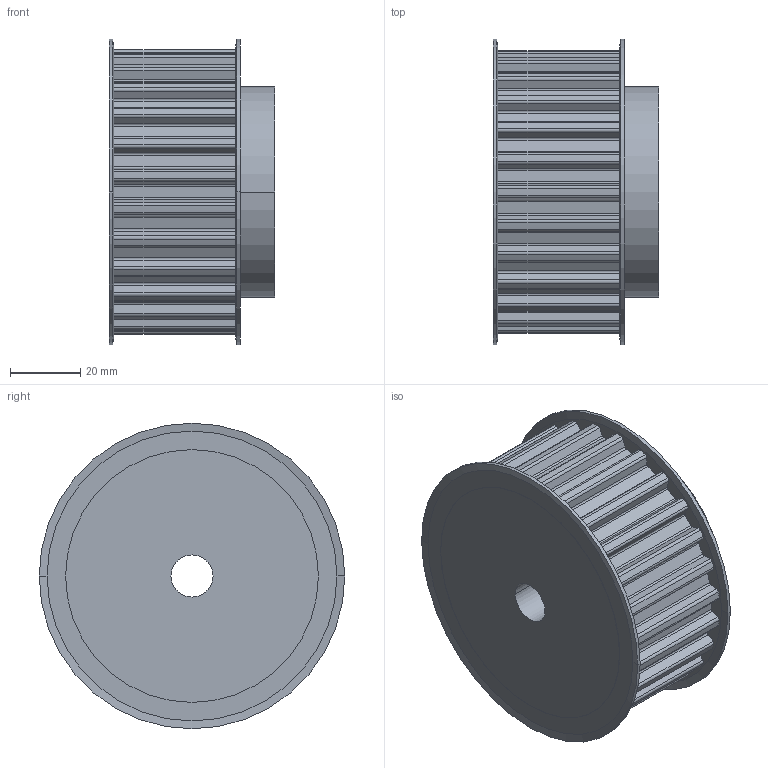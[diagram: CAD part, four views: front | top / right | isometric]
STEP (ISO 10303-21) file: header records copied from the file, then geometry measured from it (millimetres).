
FILE_DESCRIPTION( ( '' ), '1' );
FILE_NAME( 'C:/Users/Stangenbergd/Documents/CAD_Step/1/16442600.stp', '2021-10-19T08:57:29', ( '' ), ( '' ), ' ', ' ', ' ' );
FILE_SCHEMA( ( 'CONFIG_CONTROL_DESIGN' ) );
Length unit declared in the file: millimetre
Products named in the file (1): 1
Bounding box: 47.17 x 87 x 87 mm (x, y, z)
Volume: 197977.6 mm3; surface area: 30934.4 mm2
Topology: 1 solids, 1 shells, 235 faces, 676 edges, 448 vertices
Faces by surface type: cylinder 142, plane 85, cone 8
Entity records: 7866 total; most frequent: DIRECTION 1440, CARTESIAN_POINT 1360, ORIENTED_EDGE 1352, EDGE_CURVE 676, AXIS2_PLACEMENT_3D 528, VERTEX_POINT 448, LINE 384, VECTOR 384
